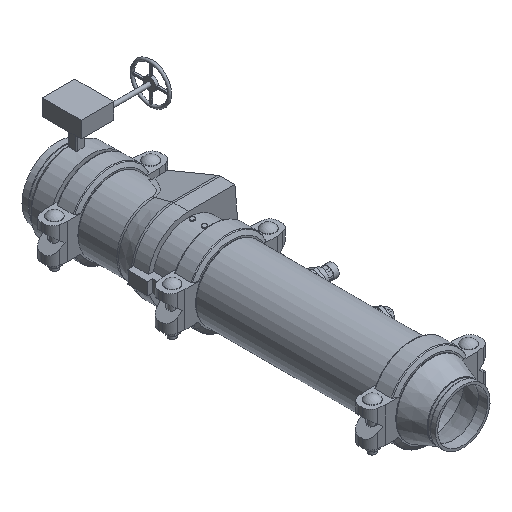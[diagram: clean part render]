
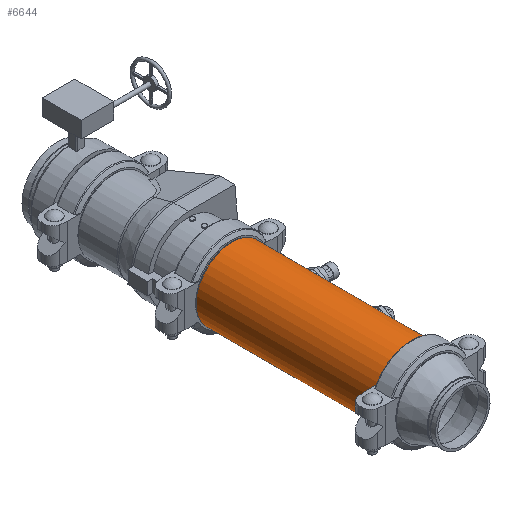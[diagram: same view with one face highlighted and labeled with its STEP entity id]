
A CAD part, isometric view. The second image highlights one B-rep face of the part: STEP entity #6644.
In plain terms, the highlighted cylindrical face has radius 109.537 mm (diameter 219.075 mm), a full revolution.
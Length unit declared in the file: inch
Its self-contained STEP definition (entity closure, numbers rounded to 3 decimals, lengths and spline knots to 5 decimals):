
#191=LINE('',#10139,#682);
#682=VECTOR('',#8101,4.3125);
#1171=CYLINDRICAL_SURFACE('',#7237,4.3125);
#1368=FACE_OUTER_BOUND('',#1740,.T.);
#1740=EDGE_LOOP('',(#4223,#4224,#4225,#4226,#4227,#4228));
#2184=CIRCLE('',#7235,4.3125);
#2185=CIRCLE('',#7236,4.3125);
#2186=CIRCLE('',#7238,4.3125);
#2187=CIRCLE('',#7239,4.3125);
#2564=VERTEX_POINT('',#10130);
#2565=VERTEX_POINT('',#10131);
#2566=VERTEX_POINT('',#10135);
#2567=VERTEX_POINT('',#10136);
#3219=EDGE_CURVE('',#2564,#2565,#2184,.T.);
#3220=EDGE_CURVE('',#2565,#2564,#2185,.T.);
#3221=EDGE_CURVE('',#2566,#2567,#2186,.T.);
#3222=EDGE_CURVE('',#2567,#2566,#2187,.T.);
#3223=EDGE_CURVE('',#2567,#2565,#191,.T.);
#4223=ORIENTED_EDGE('',*,*,#3221,.F.);
#4224=ORIENTED_EDGE('',*,*,#3222,.F.);
#4225=ORIENTED_EDGE('',*,*,#3223,.T.);
#4226=ORIENTED_EDGE('',*,*,#3220,.T.);
#4227=ORIENTED_EDGE('',*,*,#3219,.T.);
#4228=ORIENTED_EDGE('',*,*,#3223,.F.);
#6644=ADVANCED_FACE('',(#1368),#1171,.T.);
#7235=AXIS2_PLACEMENT_3D('',#10132,#8091,#8092);
#7236=AXIS2_PLACEMENT_3D('',#10133,#8093,#8094);
#7237=AXIS2_PLACEMENT_3D('',#10134,#8095,#8096);
#7238=AXIS2_PLACEMENT_3D('',#10137,#8097,#8098);
#7239=AXIS2_PLACEMENT_3D('',#10138,#8099,#8100);
#8091=DIRECTION('center_axis',(1.,0.,0.));
#8092=DIRECTION('ref_axis',(0.,0.,-1.));
#8093=DIRECTION('center_axis',(1.,0.,0.));
#8094=DIRECTION('ref_axis',(0.,0.,-1.));
#8095=DIRECTION('center_axis',(1.,0.,0.));
#8096=DIRECTION('ref_axis',(0.,1.,0.));
#8097=DIRECTION('center_axis',(1.,0.,0.));
#8098=DIRECTION('ref_axis',(0.,0.,-1.));
#8099=DIRECTION('center_axis',(1.,0.,0.));
#8100=DIRECTION('ref_axis',(0.,0.,-1.));
#8101=DIRECTION('',(-1.,0.,0.));
#10130=CARTESIAN_POINT('',(-10.791,4.3125,0.));
#10131=CARTESIAN_POINT('',(-10.791,-4.3125,0.));
#10132=CARTESIAN_POINT('Origin',(-10.791,0.,0.));
#10133=CARTESIAN_POINT('Origin',(-10.791,0.,0.));
#10134=CARTESIAN_POINT('Origin',(0.,0.,0.));
#10135=CARTESIAN_POINT('',(10.791,4.3125,0.));
#10136=CARTESIAN_POINT('',(10.791,-4.3125,0.));
#10137=CARTESIAN_POINT('Origin',(10.791,0.,0.));
#10138=CARTESIAN_POINT('Origin',(10.791,0.,0.));
#10139=CARTESIAN_POINT('',(0.,-4.3125,0.));
